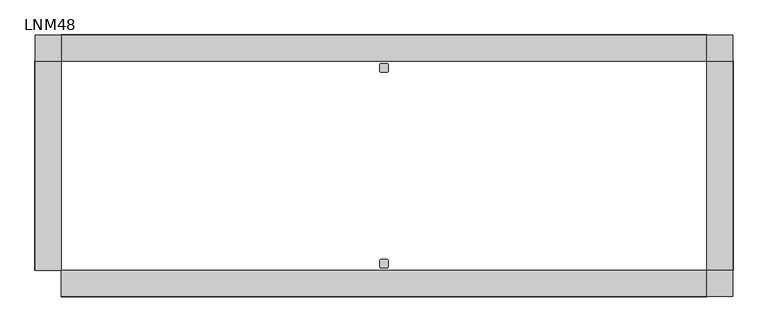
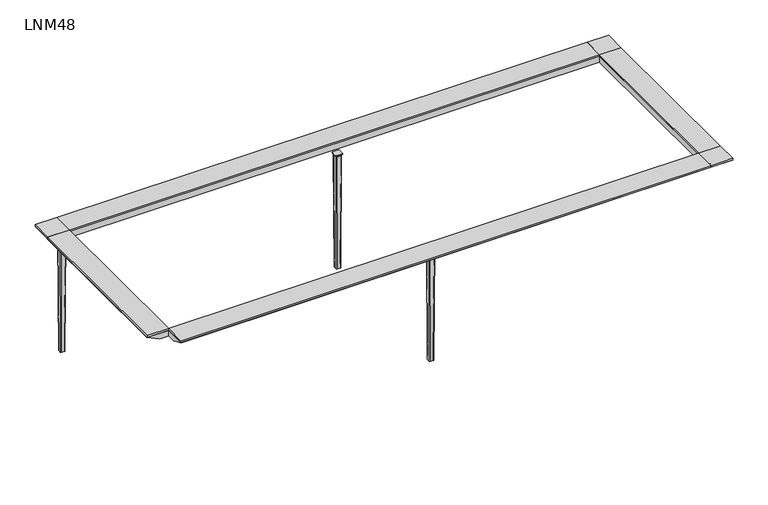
"""IFC4 building model written with IfcOpenShell, lengths in millimetres: furniture geometry, Operative Twin Desks : LNM48."""

from ifc_helpers import new_model, si_unit, point, frame, origin, place, context, project, spatial, polyline, circle_curve, ellipse_curve, trimmed, outline, extrude, faceted_brep, source, transform, mapped, element, save
from ifc_brep_helpers import plane_surface, cylinder_surface, revolved_surface, extruded_surface, advanced_brep


def lnm48_fb573a42(model_context):
    return source(origin(), model_context, "Body", "SolidModel", [
        advanced_brep(
        [(12.0, -430.0, 675.0), (-12.0, -430.0, 675.0), (-20.0, -438.0, 675.0), (-20.0, -462.0, 675.0), (-12.0, -470.0, 675.0), (12.0, -470.0, 675.0), (20.0, -462.0, 675.0), (20.0, -438.0, 675.0), (15.0, -462.0, 665.0), (12.0, -465.0, 665.0), (-12.0, -465.0, 665.0), (-15.0, -462.0, 665.0), (-15.0, -438.0, 665.0), (-12.0, -435.0, 665.0), (12.0, -435.0, 665.0), (15.0, -438.0, 665.0), (12.0, -430.0, 672.0), (-12.0, -430.0, 672.0), (-20.0, -438.0, 672.0), (-20.0, -462.0, 672.0), (-12.0, -470.0, 672.0), (12.0, -470.0, 672.0), (20.0, -462.0, 672.0), (20.0, -438.0, 672.0)],
        [
            (0, 1),
            (1, 2, circle_curve(frame((-12.0, -438.0, 675.0), z_axis=(0.0, 0.0, 1.0), x_axis=(1.0, 0.0, 0.0)), 8.0)),
            (2, 3),
            (3, 4, circle_curve(frame((-12.0, -462.0, 675.0), z_axis=(0.0, 0.0, 1.0), x_axis=(1.0, 0.0, 0.0)), 8.0)),
            (4, 5),
            (5, 6, circle_curve(frame((12.0, -462.0, 675.0), z_axis=(0.0, 0.0, 1.0), x_axis=(1.0, 0.0, 0.0)), 8.0)),
            (6, 7),
            (7, 0, circle_curve(frame((12.0, -438.0, 675.0), z_axis=(0.0, 0.0, 1.0), x_axis=(1.0, 0.0, 0.0)), 8.0)),
            (8, 9, circle_curve(frame((12.0, -462.0, 665.0), z_axis=(0.0, 0.0, -1.0), x_axis=(1.0, 0.0, 0.0)), 3.0)),
            (9, 10),
            (10, 11, circle_curve(frame((-12.0, -462.0, 665.0), z_axis=(0.0, 0.0, -1.0), x_axis=(0.0, -1.0, 0.0)), 3.0)),
            (11, 12),
            (12, 13, circle_curve(frame((-12.0, -438.0, 665.0), z_axis=(0.0, 0.0, -1.0), x_axis=(-1.0, 0.0, 0.0)), 3.0)),
            (13, 14),
            (14, 15, circle_curve(frame((12.0, -438.0, 665.0), z_axis=(0.0, 0.0, -1.0), x_axis=(0.0, 1.0, 0.0)), 3.0)),
            (15, 8),
            (0, 16),
            (16, 17),
            (17, 1),
            (17, 18, circle_curve(frame((-12.0, -438.0, 672.0), z_axis=(0.0, 0.0, 1.0), x_axis=(1.0, 0.0, 0.0)), 8.0)),
            (18, 2),
            (18, 19),
            (19, 3),
            (19, 20, circle_curve(frame((-12.0, -462.0, 672.0), z_axis=(0.0, 0.0, 1.0), x_axis=(1.0, 0.0, 0.0)), 8.0)),
            (20, 4),
            (20, 21),
            (21, 5),
            (21, 22, circle_curve(frame((12.0, -462.0, 672.0), z_axis=(0.0, 0.0, 1.0), x_axis=(1.0, 0.0, 0.0)), 8.0)),
            (22, 6),
            (22, 23),
            (23, 7),
            (23, 16, circle_curve(frame((12.0, -438.0, 672.0), z_axis=(0.0, 0.0, 1.0), x_axis=(1.0, 0.0, 0.0)), 8.0)),
            (21, 9, circle_curve(frame((12.0, -473.9600528, 663.8856766), z_axis=(-1.0, 0.0, 0.0), x_axis=(0.0, -1.0, 0.0)), 9.0290787)),
            (8, 22, circle_curve(frame((23.9600528, -462.0, 663.8856766), z_axis=(0.0, 1.0, 0.0), x_axis=(1.0, 0.0, 0.0)), 9.0290787)),
            (20, 10, circle_curve(frame((-12.0, -473.9600528, 663.8856766), z_axis=(-1.0, 0.0, 0.0), x_axis=(0.0, -1.0, 0.0)), 9.0290787)),
            (19, 11, circle_curve(frame((-23.9600528, -462.0, 663.8856766), z_axis=(0.0, 1.0, 0.0), x_axis=(-1.0, 0.0, 0.0)), 9.0290787)),
            (18, 12, circle_curve(frame((-23.9600528, -438.0, 663.8856766), z_axis=(0.0, 1.0, 0.0), x_axis=(-1.0, 0.0, 0.0)), 9.0290787)),
            (17, 13, circle_curve(frame((-12.0, -426.0399472, 663.8856766), z_axis=(1.0, 0.0, 0.0), x_axis=(0.0, 1.0, 0.0)), 9.0290787)),
            (16, 14, circle_curve(frame((12.0, -426.0399472, 663.8856766), z_axis=(1.0, 0.0, 0.0), x_axis=(0.0, 1.0, 0.0)), 9.0290787)),
            (23, 15, circle_curve(frame((23.9600528, -438.0, 663.8856766), z_axis=(0.0, -1.0, 0.0), x_axis=(1.0, 0.0, 0.0)), 9.0290787)),
        ],
        [
            plane_surface(frame((-673.663284, -430.0, 675.0), z_axis=(0.0, 0.0, 1.0), x_axis=(-1.0, 0.0, 0.0))),
            plane_surface(frame((-673.663284, -430.0, 665.0), z_axis=(0.0, 0.0, -1.0), x_axis=(1.0, 0.0, 0.0))),
            plane_surface(frame((12.0, -430.0, 675.0), z_axis=(0.0, 1.0, 0.0), x_axis=(0.0, 0.0, -1.0))),
            cylinder_surface(frame((-12.0, -438.0, 665.0), z_axis=(0.0, 0.0, 1.0), x_axis=(1.0, 0.0, 0.0)), 8.0),
            plane_surface(frame((-20.0, -438.0, 675.0), z_axis=(-1.0, 0.0, 0.0), x_axis=(0.0, 0.0, -1.0))),
            cylinder_surface(frame((-12.0, -462.0, 665.0), z_axis=(0.0, 0.0, 1.0), x_axis=(1.0, 0.0, 0.0)), 8.0),
            plane_surface(frame((-12.0, -470.0, 675.0), z_axis=(0.0, -1.0, 0.0), x_axis=(0.0, 0.0, -1.0))),
            cylinder_surface(frame((12.0, -462.0, 665.0), z_axis=(0.0, 0.0, 1.0), x_axis=(1.0, 0.0, 0.0)), 8.0),
            plane_surface(frame((20.0, -462.0, 675.0), z_axis=(1.0, 0.0, 0.0), x_axis=(0.0, 0.0, -1.0))),
            cylinder_surface(frame((12.0, -438.0, 665.0), z_axis=(0.0, 0.0, 1.0), x_axis=(1.0, 0.0, 0.0)), 8.0),
            revolved_surface(trimmed(ellipse_curve(frame((23.9600528, -462.0, 663.8856766), z_axis=(0.0, -1.0, 0.0), x_axis=(1.0, 0.0, 0.0)), 9.0290787, 9.0290787), [point((20.0, -462.0, 672.0))], [point((15.0, -462.0, 665.0))], True, "CARTESIAN"), (12.0, -462.0, 0.0), (0.0, 0.0, -1.0)),
            revolved_surface(polyline([(12.0, -482.98913150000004, 663.8856766), (-12.0, -482.98913150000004, 663.8856766)]), (12.0, -473.9600528, 663.8856766), (1.0, 0.0, 0.0)),
            revolved_surface(trimmed(ellipse_curve(frame((-12.0, -473.9600528, 663.8856766), z_axis=(-1.0, 0.0, 0.0), x_axis=(0.0, -1.0, 0.0)), 9.0290787, 9.0290787), [point((-12.0, -470.0, 672.0))], [point((-12.0, -465.0, 665.0))], True, "CARTESIAN"), (-12.0, -462.0, 0.0), (0.0, 0.0, -1.0)),
            revolved_surface(polyline([(-32.9891315, -462.0, 663.8856766), (-32.9891315, -438.0, 663.8856766)]), (-23.9600528, -462.0, 663.8856766), (0.0, -1.0, 0.0)),
            revolved_surface(trimmed(ellipse_curve(frame((-23.9600528, -438.0, 663.8856766), z_axis=(0.0, 1.0, 0.0), x_axis=(-1.0, 0.0, 0.0)), 9.0290787, 9.0290787), [point((-20.0, -438.0, 672.0))], [point((-15.0, -438.0, 665.0))], True, "CARTESIAN"), (-12.0, -438.0, 0.0), (0.0, 0.0, -1.0)),
            revolved_surface(polyline([(-12.0, -417.01086849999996, 663.8856766), (12.0, -417.01086849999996, 663.8856766)]), (-12.0, -426.0399472, 663.8856766), (-1.0, 0.0, 0.0)),
            revolved_surface(trimmed(ellipse_curve(frame((12.0, -426.0399472, 663.8856766), z_axis=(1.0, 0.0, 0.0), x_axis=(0.0, 1.0, 0.0)), 9.0290787, 9.0290787), [point((12.0, -430.0, 672.0))], [point((12.0, -435.0, 665.0))], True, "CARTESIAN"), (12.0, -438.0, 0.0), (0.0, 0.0, -1.0)),
            revolved_surface(polyline([(32.9891315, -438.0, 663.8856766), (32.9891315, -462.0, 663.8856766)]), (23.9600528, -438.0, 663.8856766), (0.0, 1.0, 0.0)),
        ],
        [
            (0, [[1, 2, 3, 4, 5, 6, 7, 8]]),
            (1, [[9, 10, 11, 12, 13, 14, 15, 16]]),
            (2, [[-1, 17, 18, 19]]),
            (3, [[-2, -19, 20, 21]]),
            (4, [[-3, -21, 22, 23]]),
            (5, [[-4, -23, 24, 25]]),
            (6, [[-5, -25, 26, 27]]),
            (7, [[-6, -27, 28, 29]]),
            (8, [[-7, -29, 30, 31]]),
            (9, [[-8, -31, 32, -17]]),
            (10, [[33, -9, 34, -28]]),
            (11, [[-33, -26, 35, -10]]),
            (12, [[-35, -24, 36, -11]]),
            (13, [[-36, -22, 37, -12]]),
            (14, [[-37, -20, 38, -13]]),
            (15, [[-38, -18, 39, -14]]),
            (16, [[-39, -32, 40, -15]]),
            (17, [[-34, -16, -40, -30]]),
        ],
    ),
        advanced_brep(
        [(-15.0, -462.0, 665.0), (-12.0, -465.0, 665.0), (12.0, -465.0, 665.0), (15.0, -462.0, 665.0), (15.0, -438.0, 665.0), (12.0, -435.0, 665.0), (-12.0, -435.0, 665.0), (-15.0, -438.0, 665.0), (-12.0, -459.0, 0.0), (-12.0, -441.0, 0.0), (-9.0, -438.0, 0.0), (9.0, -438.0, 0.0), (12.0, -441.0, 0.0), (12.0, -459.0, 0.0), (9.0, -462.0, 0.0), (-9.0, -462.0, 0.0)],
        [
            (0, 1, circle_curve(frame((-12.0, -462.0, 665.0), z_axis=(0.0, 0.0, 1.0), x_axis=(1.0, 0.0, 0.0)), 3.0)),
            (1, 2),
            (2, 3, circle_curve(frame((12.0, -462.0, 665.0), z_axis=(0.0, 0.0, 1.0), x_axis=(1.0, 0.0, 0.0)), 3.0)),
            (3, 4),
            (4, 5, circle_curve(frame((12.0, -438.0, 665.0), z_axis=(0.0, 0.0, 1.0), x_axis=(1.0, 0.0, 0.0)), 3.0)),
            (5, 6),
            (6, 7, circle_curve(frame((-12.0, -438.0, 665.0), z_axis=(0.0, 0.0, 1.0), x_axis=(1.0, 0.0, 0.0)), 3.0)),
            (7, 0),
            (8, 9),
            (9, 10, circle_curve(frame((-9.0, -441.0, 0.0), z_axis=(0.0, 0.0, -1.0), x_axis=(1.0, 0.0, 0.0)), 3.0)),
            (10, 11),
            (11, 12, circle_curve(frame((9.0, -441.0, 0.0), z_axis=(0.0, 0.0, -1.0), x_axis=(1.0, 0.0, 0.0)), 3.0)),
            (12, 13),
            (13, 14, circle_curve(frame((9.0, -459.0, 0.0), z_axis=(0.0, 0.0, -1.0), x_axis=(1.0, 0.0, 0.0)), 3.0)),
            (14, 15),
            (15, 8, circle_curve(frame((-9.0, -459.0, 0.0), z_axis=(0.0, 0.0, -1.0), x_axis=(1.0, 0.0, 0.0)), 3.0)),
            (15, 1),
            (0, 8),
            (14, 2),
            (13, 3),
            (12, 4),
            (11, 5),
            (10, 6),
            (9, 7),
        ],
        [
            plane_surface(frame((0.0, -450.0, 665.0), z_axis=(0.0, 0.0, 1.0), x_axis=(-1.0, 0.0, 0.0))),
            plane_surface(frame((0.0, -450.0, 0.0), z_axis=(0.0, 0.0, -1.0), x_axis=(-1.0, 0.0, 0.0))),
            extruded_surface(trimmed(circle_curve(frame((-9.0, -459.0, 0.0), z_axis=(0.0, 0.0, 1.0), x_axis=(1.0, 0.0, 0.0)), 3.0), [point((-12.0, -459.0, 0.0))], [point((-9.0, -462.0, 0.0))], True, "CARTESIAN"), (-3.0, -3.0, 665.0), 665.0135336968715),
            plane_surface(frame((0.0, -462.0, 0.0), z_axis=(0.0, -0.9999898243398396, -0.004511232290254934), x_axis=(1.0, 0.0, 0.0))),
            extruded_surface(trimmed(circle_curve(frame((9.0, -459.0, 0.0), z_axis=(0.0, 0.0, 1.0), x_axis=(1.0, 0.0, 0.0)), 3.0), [point((9.0, -462.0, 0.0))], [point((12.0, -459.0, 0.0))], True, "CARTESIAN"), (3.0, -3.0, 665.0), 665.0135336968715),
            plane_surface(frame((12.0, -450.0, 0.0), z_axis=(0.9999898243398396, 0.0, -0.004511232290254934), x_axis=(0.0, 1.0, 0.0))),
            extruded_surface(trimmed(circle_curve(frame((9.0, -441.0, 0.0), z_axis=(0.0, 0.0, 1.0), x_axis=(1.0, 0.0, 0.0)), 3.0), [point((12.0, -441.0, 0.0))], [point((9.0, -438.0, 0.0))], True, "CARTESIAN"), (3.0, 3.0, 665.0), 665.0135336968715),
            plane_surface(frame((0.0, -438.0, 0.0), z_axis=(0.0, 0.9999898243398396, -0.004511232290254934), x_axis=(-1.0, 0.0, 0.0))),
            extruded_surface(trimmed(circle_curve(frame((-9.0, -441.0, 0.0), z_axis=(0.0, 0.0, 1.0), x_axis=(1.0, 0.0, 0.0)), 3.0), [point((-9.0, -438.0, 0.0))], [point((-12.0, -441.0, 0.0))], True, "CARTESIAN"), (-3.0, 3.0, 665.0), 665.0135336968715),
            plane_surface(frame((-12.0, -450.0, 0.0), z_axis=(-0.9999898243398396, 0.0, -0.004511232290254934), x_axis=(0.0, -1.0, 0.0))),
        ],
        [
            (0, [[1, 2, 3, 4, 5, 6, 7, 8]]),
            (1, [[9, 10, 11, 12, 13, 14, 15, 16]]),
            (2, [[-16, 17, -1, 18]]),
            (3, [[-15, 19, -2, -17]]),
            (4, [[-14, 20, -3, -19]]),
            (5, [[-13, 21, -4, -20]]),
            (6, [[-12, 22, -5, -21]]),
            (7, [[-11, 23, -6, -22]]),
            (8, [[-10, 24, -7, -23]]),
            (9, [[-9, -18, -8, -24]]),
        ],
    ),
        advanced_brep(
        [(12.0, 470.0, 675.0), (-12.0, 470.0, 675.0), (-20.0, 462.0, 675.0), (-20.0, 438.0, 675.0), (-12.0, 430.0, 675.0), (12.0, 430.0, 675.0), (20.0, 438.0, 675.0), (20.0, 462.0, 675.0), (15.0, 438.0, 665.0), (12.0, 435.0, 665.0), (-12.0, 435.0, 665.0), (-15.0, 438.0, 665.0), (-15.0, 462.0, 665.0), (-12.0, 465.0, 665.0), (12.0, 465.0, 665.0), (15.0, 462.0, 665.0), (12.0, 470.0, 672.0), (-12.0, 470.0, 672.0), (-20.0, 462.0, 672.0), (-20.0, 438.0, 672.0), (-12.0, 430.0, 672.0), (12.0, 430.0, 672.0), (20.0, 438.0, 672.0), (20.0, 462.0, 672.0)],
        [
            (0, 1),
            (1, 2, circle_curve(frame((-12.0, 462.0, 675.0), z_axis=(0.0, 0.0, 1.0), x_axis=(1.0, 0.0, 0.0)), 8.0)),
            (2, 3),
            (3, 4, circle_curve(frame((-12.0, 438.0, 675.0), z_axis=(0.0, 0.0, 1.0), x_axis=(1.0, 0.0, 0.0)), 8.0)),
            (4, 5),
            (5, 6, circle_curve(frame((12.0, 438.0, 675.0), z_axis=(0.0, 0.0, 1.0), x_axis=(1.0, 0.0, 0.0)), 8.0)),
            (6, 7),
            (7, 0, circle_curve(frame((12.0, 462.0, 675.0), z_axis=(0.0, 0.0, 1.0), x_axis=(1.0, 0.0, 0.0)), 8.0)),
            (8, 9, circle_curve(frame((12.0, 438.0, 665.0), z_axis=(0.0, 0.0, -1.0), x_axis=(1.0, 0.0, 0.0)), 3.0)),
            (9, 10),
            (10, 11, circle_curve(frame((-12.0, 438.0, 665.0), z_axis=(0.0, 0.0, -1.0), x_axis=(0.0, -1.0, 0.0)), 3.0)),
            (11, 12),
            (12, 13, circle_curve(frame((-12.0, 462.0, 665.0), z_axis=(0.0, 0.0, -1.0), x_axis=(-1.0, 0.0, 0.0)), 3.0)),
            (13, 14),
            (14, 15, circle_curve(frame((12.0, 462.0, 665.0), z_axis=(0.0, 0.0, -1.0), x_axis=(0.0, 1.0, 0.0)), 3.0)),
            (15, 8),
            (0, 16),
            (16, 17),
            (17, 1),
            (17, 18, circle_curve(frame((-12.0, 462.0, 672.0), z_axis=(0.0, 0.0, 1.0), x_axis=(1.0, 0.0, 0.0)), 8.0)),
            (18, 2),
            (18, 19),
            (19, 3),
            (19, 20, circle_curve(frame((-12.0, 438.0, 672.0), z_axis=(0.0, 0.0, 1.0), x_axis=(1.0, 0.0, 0.0)), 8.0)),
            (20, 4),
            (20, 21),
            (21, 5),
            (21, 22, circle_curve(frame((12.0, 438.0, 672.0), z_axis=(0.0, 0.0, 1.0), x_axis=(1.0, 0.0, 0.0)), 8.0)),
            (22, 6),
            (22, 23),
            (23, 7),
            (23, 16, circle_curve(frame((12.0, 462.0, 672.0), z_axis=(0.0, 0.0, 1.0), x_axis=(1.0, 0.0, 0.0)), 8.0)),
            (21, 9, circle_curve(frame((12.0, 426.0399472, 663.8856766), z_axis=(-1.0, 0.0, 0.0), x_axis=(0.0, -1.0, 0.0)), 9.0290787)),
            (8, 22, circle_curve(frame((23.9600528, 438.0, 663.8856766), z_axis=(0.0, 1.0, 0.0), x_axis=(1.0, 0.0, 0.0)), 9.0290787)),
            (20, 10, circle_curve(frame((-12.0, 426.0399472, 663.8856766), z_axis=(-1.0, 0.0, 0.0), x_axis=(0.0, -1.0, 0.0)), 9.0290787)),
            (19, 11, circle_curve(frame((-23.9600528, 438.0, 663.8856766), z_axis=(0.0, 1.0, 0.0), x_axis=(-1.0, 0.0, 0.0)), 9.0290787)),
            (18, 12, circle_curve(frame((-23.9600528, 462.0, 663.8856766), z_axis=(0.0, 1.0, 0.0), x_axis=(-1.0, 0.0, 0.0)), 9.0290787)),
            (17, 13, circle_curve(frame((-12.0, 473.9600528, 663.8856766), z_axis=(1.0, 0.0, 0.0), x_axis=(0.0, 1.0, 0.0)), 9.0290787)),
            (16, 14, circle_curve(frame((12.0, 473.9600528, 663.8856766), z_axis=(1.0, 0.0, 0.0), x_axis=(0.0, 1.0, 0.0)), 9.0290787)),
            (23, 15, circle_curve(frame((23.9600528, 462.0, 663.8856766), z_axis=(0.0, -1.0, 0.0), x_axis=(1.0, 0.0, 0.0)), 9.0290787)),
        ],
        [
            plane_surface(frame((-673.663284, 470.0, 675.0), z_axis=(0.0, 0.0, 1.0), x_axis=(-1.0, 0.0, 0.0))),
            plane_surface(frame((-673.663284, 470.0, 665.0), z_axis=(0.0, 0.0, -1.0), x_axis=(1.0, 0.0, 0.0))),
            plane_surface(frame((12.0, 470.0, 675.0), z_axis=(0.0, 1.0, 0.0), x_axis=(0.0, 0.0, -1.0))),
            cylinder_surface(frame((-12.0, 462.0, 665.0), z_axis=(0.0, 0.0, 1.0), x_axis=(1.0, 0.0, 0.0)), 8.0),
            plane_surface(frame((-20.0, 462.0, 675.0), z_axis=(-1.0, 0.0, 0.0), x_axis=(0.0, 0.0, -1.0))),
            cylinder_surface(frame((-12.0, 438.0, 665.0), z_axis=(0.0, 0.0, 1.0), x_axis=(1.0, 0.0, 0.0)), 8.0),
            plane_surface(frame((-12.0, 430.0, 675.0), z_axis=(0.0, -1.0, 0.0), x_axis=(0.0, 0.0, -1.0))),
            cylinder_surface(frame((12.0, 438.0, 665.0), z_axis=(0.0, 0.0, 1.0), x_axis=(1.0, 0.0, 0.0)), 8.0),
            plane_surface(frame((20.0, 438.0, 675.0), z_axis=(1.0, 0.0, 0.0), x_axis=(0.0, 0.0, -1.0))),
            cylinder_surface(frame((12.0, 462.0, 665.0), z_axis=(0.0, 0.0, 1.0), x_axis=(1.0, 0.0, 0.0)), 8.0),
            revolved_surface(trimmed(ellipse_curve(frame((23.9600528, 438.0, 663.8856766), z_axis=(0.0, -1.0, 0.0), x_axis=(1.0, 0.0, 0.0)), 9.0290787, 9.0290787), [point((20.0, 438.0, 672.0))], [point((15.0, 438.0, 665.0))], True, "CARTESIAN"), (12.0, 438.0, 0.0), (0.0, 0.0, -1.0)),
            revolved_surface(polyline([(12.0, 417.01086849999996, 663.8856766), (-12.0, 417.01086849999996, 663.8856766)]), (12.0, 426.0399472, 663.8856766), (1.0, 0.0, 0.0)),
            revolved_surface(trimmed(ellipse_curve(frame((-12.0, 426.0399472, 663.8856766), z_axis=(-1.0, 0.0, 0.0), x_axis=(0.0, -1.0, 0.0)), 9.0290787, 9.0290787), [point((-12.0, 430.0, 672.0))], [point((-12.0, 435.0, 665.0))], True, "CARTESIAN"), (-12.0, 438.0, 0.0), (0.0, 0.0, -1.0)),
            revolved_surface(polyline([(-32.9891315, 438.0, 663.8856766), (-32.9891315, 462.0, 663.8856766)]), (-23.9600528, 438.0, 663.8856766), (0.0, -1.0, 0.0)),
            revolved_surface(trimmed(ellipse_curve(frame((-23.9600528, 462.0, 663.8856766), z_axis=(0.0, 1.0, 0.0), x_axis=(-1.0, 0.0, 0.0)), 9.0290787, 9.0290787), [point((-20.0, 462.0, 672.0))], [point((-15.0, 462.0, 665.0))], True, "CARTESIAN"), (-12.0, 462.0, 0.0), (0.0, 0.0, -1.0)),
            revolved_surface(polyline([(-12.0, 482.98913150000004, 663.8856766), (12.0, 482.98913150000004, 663.8856766)]), (-12.0, 473.9600528, 663.8856766), (-1.0, 0.0, 0.0)),
            revolved_surface(trimmed(ellipse_curve(frame((12.0, 473.9600528, 663.8856766), z_axis=(1.0, 0.0, 0.0), x_axis=(0.0, 1.0, 0.0)), 9.0290787, 9.0290787), [point((12.0, 470.0, 672.0))], [point((12.0, 465.0, 665.0))], True, "CARTESIAN"), (12.0, 462.0, 0.0), (0.0, 0.0, -1.0)),
            revolved_surface(polyline([(32.9891315, 462.0, 663.8856766), (32.9891315, 438.0, 663.8856766)]), (23.9600528, 462.0, 663.8856766), (0.0, 1.0, 0.0)),
        ],
        [
            (0, [[1, 2, 3, 4, 5, 6, 7, 8]]),
            (1, [[9, 10, 11, 12, 13, 14, 15, 16]]),
            (2, [[-1, 17, 18, 19]]),
            (3, [[-2, -19, 20, 21]]),
            (4, [[-3, -21, 22, 23]]),
            (5, [[-4, -23, 24, 25]]),
            (6, [[-5, -25, 26, 27]]),
            (7, [[-6, -27, 28, 29]]),
            (8, [[-7, -29, 30, 31]]),
            (9, [[-8, -31, 32, -17]]),
            (10, [[33, -9, 34, -28]]),
            (11, [[-33, -26, 35, -10]]),
            (12, [[-35, -24, 36, -11]]),
            (13, [[-36, -22, 37, -12]]),
            (14, [[-37, -20, 38, -13]]),
            (15, [[-38, -18, 39, -14]]),
            (16, [[-39, -32, 40, -15]]),
            (17, [[-34, -16, -40, -30]]),
        ],
    ),
        advanced_brep(
        [(-15.0, 438.0, 665.0), (-12.0, 435.0, 665.0), (12.0, 435.0, 665.0), (15.0, 438.0, 665.0), (15.0, 462.0, 665.0), (12.0, 465.0, 665.0), (-12.0, 465.0, 665.0), (-15.0, 462.0, 665.0), (-12.0, 441.0, 0.0), (-12.0, 459.0, 0.0), (-9.0, 462.0, 0.0), (9.0, 462.0, 0.0), (12.0, 459.0, 0.0), (12.0, 441.0, 0.0), (9.0, 438.0, 0.0), (-9.0, 438.0, 0.0)],
        [
            (0, 1, circle_curve(frame((-12.0, 438.0, 665.0), z_axis=(0.0, 0.0, 1.0), x_axis=(1.0, 0.0, 0.0)), 3.0)),
            (1, 2),
            (2, 3, circle_curve(frame((12.0, 438.0, 665.0), z_axis=(0.0, 0.0, 1.0), x_axis=(1.0, 0.0, 0.0)), 3.0)),
            (3, 4),
            (4, 5, circle_curve(frame((12.0, 462.0, 665.0), z_axis=(0.0, 0.0, 1.0), x_axis=(1.0, 0.0, 0.0)), 3.0)),
            (5, 6),
            (6, 7, circle_curve(frame((-12.0, 462.0, 665.0), z_axis=(0.0, 0.0, 1.0), x_axis=(1.0, 0.0, 0.0)), 3.0)),
            (7, 0),
            (8, 9),
            (9, 10, circle_curve(frame((-9.0, 459.0, 0.0), z_axis=(0.0, 0.0, -1.0), x_axis=(1.0, 0.0, 0.0)), 3.0)),
            (10, 11),
            (11, 12, circle_curve(frame((9.0, 459.0, 0.0), z_axis=(0.0, 0.0, -1.0), x_axis=(1.0, 0.0, 0.0)), 3.0)),
            (12, 13),
            (13, 14, circle_curve(frame((9.0, 441.0, 0.0), z_axis=(0.0, 0.0, -1.0), x_axis=(1.0, 0.0, 0.0)), 3.0)),
            (14, 15),
            (15, 8, circle_curve(frame((-9.0, 441.0, 0.0), z_axis=(0.0, 0.0, -1.0), x_axis=(1.0, 0.0, 0.0)), 3.0)),
            (15, 1),
            (0, 8),
            (14, 2),
            (13, 3),
            (12, 4),
            (11, 5),
            (10, 6),
            (9, 7),
        ],
        [
            plane_surface(frame((0.0, 450.0, 665.0), z_axis=(0.0, 0.0, 1.0), x_axis=(-1.0, 0.0, 0.0))),
            plane_surface(frame((0.0, 450.0, 0.0), z_axis=(0.0, 0.0, -1.0), x_axis=(-1.0, 0.0, 0.0))),
            extruded_surface(trimmed(circle_curve(frame((-9.0, 441.0, 0.0), z_axis=(0.0, 0.0, 1.0), x_axis=(1.0, 0.0, 0.0)), 3.0), [point((-12.0, 441.0, 0.0))], [point((-9.0, 438.0, 0.0))], True, "CARTESIAN"), (-3.0, -3.0, 665.0), 665.0135336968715),
            plane_surface(frame((0.0, 438.0, 0.0), z_axis=(0.0, -0.9999898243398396, -0.004511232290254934), x_axis=(1.0, 0.0, 0.0))),
            extruded_surface(trimmed(circle_curve(frame((9.0, 441.0, 0.0), z_axis=(0.0, 0.0, 1.0), x_axis=(1.0, 0.0, 0.0)), 3.0), [point((9.0, 438.0, 0.0))], [point((12.0, 441.0, 0.0))], True, "CARTESIAN"), (3.0, -3.0, 665.0), 665.0135336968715),
            plane_surface(frame((12.0, 450.0, 0.0), z_axis=(0.9999898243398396, 0.0, -0.004511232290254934), x_axis=(0.0, 1.0, 0.0))),
            extruded_surface(trimmed(circle_curve(frame((9.0, 459.0, 0.0), z_axis=(0.0, 0.0, 1.0), x_axis=(1.0, 0.0, 0.0)), 3.0), [point((12.0, 459.0, 0.0))], [point((9.0, 462.0, 0.0))], True, "CARTESIAN"), (3.0, 3.0, 665.0), 665.0135336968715),
            plane_surface(frame((0.0, 462.0, 0.0), z_axis=(0.0, 0.9999898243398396, -0.004511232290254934), x_axis=(-1.0, 0.0, 0.0))),
            extruded_surface(trimmed(circle_curve(frame((-9.0, 459.0, 0.0), z_axis=(0.0, 0.0, 1.0), x_axis=(1.0, 0.0, 0.0)), 3.0), [point((-9.0, 462.0, 0.0))], [point((-12.0, 459.0, 0.0))], True, "CARTESIAN"), (-3.0, 3.0, 665.0), 665.0135336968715),
            plane_surface(frame((-12.0, 450.0, 0.0), z_axis=(-0.9999898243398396, 0.0, -0.004511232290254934), x_axis=(0.0, -1.0, 0.0))),
        ],
        [
            (0, [[1, 2, 3, 4, 5, 6, 7, 8]]),
            (1, [[9, 10, 11, 12, 13, 14, 15, 16]]),
            (2, [[-16, 17, -1, 18]]),
            (3, [[-15, 19, -2, -17]]),
            (4, [[-14, 20, -3, -19]]),
            (5, [[-13, 21, -4, -20]]),
            (6, [[-12, 22, -5, -21]]),
            (7, [[-11, 23, -6, -22]]),
            (8, [[-10, 24, -7, -23]]),
            (9, [[-9, -18, -8, -24]]),
        ],
    ),
        extrude(outline(polyline([(1600.0, -480.0), (1600.0, -600.0), (1480.0, -600.0), (1480.0, -480.0), (1600.0, -480.0)])), frame((0.0, 0.0, 710.0), z_axis=(0.0, 0.0, 1.0), x_axis=(1.0, 0.0, 0.0)), (0.0, 0.0, 1.0), 10.0),
        extrude(outline(polyline([(1600.0, 600.0), (1600.0, 480.0), (1480.0, 480.0), (1480.0, 600.0), (1600.0, 600.0)])), frame((0.0, 0.0, 710.0), z_axis=(0.0, 0.0, 1.0), x_axis=(1.0, 0.0, 0.0)), (0.0, 0.0, 1.0), 10.0),
        extrude(outline(polyline([(-1480.0, 600.0), (-1480.0, 480.0), (-1600.0, 480.0), (-1600.0, 600.0), (-1480.0, 600.0)])), frame((0.0, 0.0, 710.0), z_axis=(0.0, 0.0, 1.0), x_axis=(1.0, 0.0, 0.0)), (0.0, 0.0, 1.0), 10.0),
        extrude(outline(polyline([(-1600.0, 480.0), (-1480.0, 480.0), (-1480.0, -480.0), (-1600.0, -480.0), (-1600.0, 480.0)])), frame((0.0, 0.0, 710.0), z_axis=(0.0, 0.0, 1.0), x_axis=(1.0, 0.0, 0.0)), (0.0, 0.0, 1.0), 10.0),
        extrude(outline(polyline([(1480.0, 480.0), (1600.0, 480.0), (1600.0, -480.0), (1480.0, -480.0), (1480.0, 480.0)])), frame((0.0, 0.0, 710.0), z_axis=(0.0, 0.0, 1.0), x_axis=(1.0, 0.0, 0.0)), (0.0, 0.0, 1.0), 10.0),
        extrude(outline(polyline([(1480.0, -480.0), (1480.0, -600.0), (-1480.0, -600.0), (-1480.0, -480.0), (1480.0, -480.0)])), frame((0.0, 0.0, 710.0), z_axis=(0.0, 0.0, 1.0), x_axis=(1.0, 0.0, 0.0)), (0.0, 0.0, 1.0), 10.0),
        extrude(outline(polyline([(1480.0, 600.0), (1480.0, 480.0), (-1480.0, 480.0), (-1480.0, 600.0), (1480.0, 600.0)])), frame((0.0, 0.0, 710.0), z_axis=(0.0, 0.0, 1.0), x_axis=(1.0, 0.0, 0.0)), (0.0, 0.0, 1.0), 10.0),
        extrude(outline(polyline([(710.0, 1480.0), (675.0, 1480.0), (675.0, 1528.7129935), (710.0, 1601.7129935), (710.0, 1480.0)])), frame((0.0, -480.0, 0.0), z_axis=(0.0, 1.0, 0.0), x_axis=(0.0, 0.0, 1.0)), (0.0, 0.0, 1.0), 960.0),
        extrude(outline(polyline([(710.0, -1480.0), (710.0, -1601.7129935), (675.0, -1528.7129935), (675.0, -1480.0), (710.0, -1480.0)])), frame((0.0, -480.0, 0.0), z_axis=(0.0, 1.0, 0.0), x_axis=(0.0, 0.0, 1.0)), (0.0, 0.0, 1.0), 960.0),
        extrude(outline(polyline([(480.0, 710.0), (601.7129935, 710.0), (528.7129935, 675.0), (480.0, 675.0), (480.0, 710.0)])), frame((-1480.0, 0.0, 0.0), z_axis=(1.0, 0.0, 0.0), x_axis=(0.0, 1.0, 0.0)), (0.0, 0.0, 1.0), 2960.0),
        extrude(outline(polyline([(-480.0, 710.0), (-480.0, 675.0), (-528.7129935, 675.0), (-601.7129935, 710.0), (-480.0, 710.0)])), frame((-1480.0, 0.0, 0.0), z_axis=(1.0, 0.0, 0.0), x_axis=(0.0, 1.0, 0.0)), (0.0, 0.0, 1.0), 2960.0),
        faceted_brep([(-1480.0, 480.0, 710.0), (-1480.0, 600.0, 710.0), (-1600.0, 600.0, 710.0), (-1600.0, 480.0, 710.0), (-1480.0, 480.0, 675.0), (-1527.0, 480.0, 675.0), (-1527.0, 527.0, 675.0), (-1480.0, 527.0, 675.0)], [[[0, 1, 2, 3]], [[4, 5, 6, 7]], [[1, 0, 4, 7]], [[0, 3, 5, 4]], [[6, 2, 1, 7]], [[2, 6, 5, 3]]]),
        advanced_brep(
        [(-1487.0, 495.0, 675.0), (-1487.0, 519.0, 675.0), (-1495.0, 527.0, 675.0), (-1519.0, 527.0, 675.0), (-1527.0, 519.0, 675.0), (-1527.0, 495.0, 675.0), (-1519.0, 487.0, 675.0), (-1495.0, 487.0, 675.0), (-1519.0, 492.0, 665.0), (-1522.0, 495.0, 665.0), (-1522.0, 519.0, 665.0), (-1519.0, 522.0, 665.0), (-1495.0, 522.0, 665.0), (-1492.0, 519.0, 665.0), (-1492.0, 495.0, 665.0), (-1495.0, 492.0, 665.0), (-1487.0, 495.0, 672.0), (-1487.0, 519.0, 672.0), (-1495.0, 527.0, 672.0), (-1519.0, 527.0, 672.0), (-1527.0, 519.0, 672.0), (-1527.0, 495.0, 672.0), (-1519.0, 487.0, 672.0), (-1495.0, 487.0, 672.0)],
        [
            (0, 1),
            (1, 2, circle_curve(frame((-1495.0, 519.0, 675.0), z_axis=(0.0, 0.0, 1.0), x_axis=(0.0, -1.0000000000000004, 0.0)), 8.0)),
            (2, 3),
            (3, 4, circle_curve(frame((-1519.0, 519.0, 675.0), z_axis=(0.0, 0.0, 1.0), x_axis=(0.0, -1.0000000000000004, 0.0)), 8.0)),
            (4, 5),
            (5, 6, circle_curve(frame((-1519.0, 495.0, 675.0), z_axis=(0.0, 0.0, 1.0), x_axis=(0.0, -1.0000000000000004, 0.0)), 8.0)),
            (6, 7),
            (7, 0, circle_curve(frame((-1495.0, 495.0, 675.0), z_axis=(0.0, 0.0, 1.0), x_axis=(0.0, -1.0000000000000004, 0.0)), 8.0)),
            (8, 9, circle_curve(frame((-1519.0, 495.0, 665.0), z_axis=(0.0, 0.0, -1.0), x_axis=(0.0, -1.0000000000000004, 0.0)), 3.0)),
            (9, 10),
            (10, 11, circle_curve(frame((-1519.0, 519.0, 665.0), z_axis=(0.0, 0.0, -1.0), x_axis=(-1.0000000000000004, 0.0, 0.0)), 3.0)),
            (11, 12),
            (12, 13, circle_curve(frame((-1495.0, 519.0, 665.0), z_axis=(0.0, 0.0, -1.0), x_axis=(0.0, 1.0000000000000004, 0.0)), 3.0)),
            (13, 14),
            (14, 15, circle_curve(frame((-1495.0, 495.0, 665.0), z_axis=(0.0, 0.0, -1.0), x_axis=(1.0000000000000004, 0.0, 0.0)), 3.0)),
            (15, 8),
            (0, 16),
            (16, 17),
            (17, 1),
            (17, 18, circle_curve(frame((-1495.0, 519.0, 672.0), z_axis=(0.0, 0.0, 1.0), x_axis=(0.0, -1.0000000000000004, 0.0)), 8.0)),
            (18, 2),
            (18, 19),
            (19, 3),
            (19, 20, circle_curve(frame((-1519.0, 519.0, 672.0), z_axis=(0.0, 0.0, 1.0), x_axis=(0.0, -1.0000000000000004, 0.0)), 8.0)),
            (20, 4),
            (20, 21),
            (21, 5),
            (21, 22, circle_curve(frame((-1519.0, 495.0, 672.0), z_axis=(0.0, 0.0, 1.0), x_axis=(0.0, -1.0000000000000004, 0.0)), 8.0)),
            (22, 6),
            (22, 23),
            (23, 7),
            (23, 16, circle_curve(frame((-1495.0, 495.0, 672.0), z_axis=(0.0, 0.0, 1.0), x_axis=(0.0, -1.0000000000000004, 0.0)), 8.0)),
            (21, 9, circle_curve(frame((-1530.9600528, 495.0, 663.8856766), z_axis=(0.0, 1.0000000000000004, 0.0), x_axis=(-1.0000000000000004, 0.0, 0.0)), 9.0290787)),
            (8, 22, circle_curve(frame((-1519.0, 483.0399472, 663.8856766), z_axis=(1.0000000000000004, 0.0, 0.0), x_axis=(0.0, -1.0000000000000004, 0.0)), 9.0290787)),
            (20, 10, circle_curve(frame((-1530.9600528, 519.0, 663.8856766), z_axis=(0.0, 1.0, 0.0), x_axis=(-1.0000000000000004, 0.0, 0.0)), 9.0290787)),
            (19, 11, circle_curve(frame((-1519.0, 530.9600528, 663.8856766), z_axis=(1.0000000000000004, 0.0, 0.0), x_axis=(0.0, 1.0000000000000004, 0.0)), 9.0290787)),
            (18, 12, circle_curve(frame((-1495.0, 530.9600528, 663.8856766), z_axis=(1.0, 0.0, 0.0), x_axis=(0.0, 1.0000000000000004, 0.0)), 9.0290787)),
            (17, 13, circle_curve(frame((-1483.0399472, 519.0, 663.8856766), z_axis=(0.0, -1.0000000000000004, 0.0), x_axis=(1.0000000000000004, 0.0, 0.0)), 9.0290787)),
            (16, 14, circle_curve(frame((-1483.0399472, 495.0, 663.8856766), z_axis=(0.0, -1.0, 0.0), x_axis=(1.0000000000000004, 0.0, 0.0)), 9.0290787)),
            (23, 15, circle_curve(frame((-1495.0, 483.0399472, 663.8856766), z_axis=(-1.0000000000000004, 0.0, 0.0), x_axis=(0.0, -1.0000000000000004, 0.0)), 9.0290787)),
        ],
        [
            plane_surface(frame((-1487.0, 1180.663284, 675.0), z_axis=(0.0, 0.0, 1.0), x_axis=(0.0, 1.0, 0.0))),
            plane_surface(frame((-1487.0, 1180.663284, 665.0), z_axis=(0.0, 0.0, -1.0), x_axis=(0.0, -1.0, 0.0))),
            plane_surface(frame((-1487.0, 495.0, 675.0), z_axis=(1.0, 0.0, 0.0), x_axis=(0.0, 0.0, -1.0))),
            cylinder_surface(frame((-1495.0, 519.0, 665.0), z_axis=(0.0, 0.0, 1.0), x_axis=(0.0, -1.0000000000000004, 0.0)), 8.0),
            plane_surface(frame((-1495.0, 527.0, 675.0), z_axis=(0.0, 1.0, 0.0), x_axis=(0.0, 0.0, -1.0))),
            cylinder_surface(frame((-1519.0, 519.0, 665.0), z_axis=(0.0, 0.0, 1.0), x_axis=(0.0, -1.0000000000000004, 0.0)), 8.0),
            plane_surface(frame((-1527.0, 519.0, 675.0), z_axis=(-1.0, 0.0, 0.0), x_axis=(0.0, 0.0, -1.0))),
            cylinder_surface(frame((-1519.0, 495.0, 665.0), z_axis=(0.0, 0.0, 1.0), x_axis=(0.0, -1.0000000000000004, 0.0)), 8.0),
            plane_surface(frame((-1519.0, 487.0, 675.0), z_axis=(0.0, -1.0, 0.0), x_axis=(0.0, 0.0, -1.0))),
            cylinder_surface(frame((-1495.0, 495.0, 665.0), z_axis=(0.0, 0.0, 1.0), x_axis=(0.0, -1.0000000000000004, 0.0)), 8.0),
            revolved_surface(trimmed(ellipse_curve(frame((-1519.0, 483.0399472, 663.8856766), z_axis=(-1.0000000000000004, 0.0, 0.0), x_axis=(0.0, -1.0000000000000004, 0.0)), 9.0290787, 9.0290787), [point((-1519.0, 487.0, 672.0))], [point((-1519.0, 492.0, 665.0))], True, "CARTESIAN"), (-1519.0, 495.0, 0.0), (0.0, 0.0, -1.0)),
            revolved_surface(polyline([(-1539.9891315, 495.0, 663.8856766), (-1539.9891315, 519.0, 663.8856766)]), (-1530.9600528, 495.0, 663.8856766), (0.0, -1.0000000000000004, 0.0)),
            revolved_surface(trimmed(ellipse_curve(frame((-1530.9600528, 519.0, 663.8856766), z_axis=(0.0, 1.0000000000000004, 0.0), x_axis=(-1.0000000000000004, 0.0, 0.0)), 9.0290787, 9.0290787), [point((-1527.0, 519.0, 672.0))], [point((-1522.0, 519.0, 665.0))], True, "CARTESIAN"), (-1519.0, 519.0, 0.0), (0.0, 0.0, -1.0)),
            revolved_surface(polyline([(-1519.0, 539.9891315, 663.8856766), (-1495.0, 539.9891315, 663.8856766)]), (-1519.0, 530.9600528, 663.8856766), (-1.0000000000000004, 0.0, 0.0)),
            revolved_surface(trimmed(ellipse_curve(frame((-1495.0, 530.9600528, 663.8856766), z_axis=(1.0000000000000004, 0.0, 0.0), x_axis=(0.0, 1.0000000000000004, 0.0)), 9.0290787, 9.0290787), [point((-1495.0, 527.0, 672.0))], [point((-1495.0, 522.0, 665.0))], True, "CARTESIAN"), (-1495.0, 519.0, 0.0), (0.0, 0.0, -1.0)),
            revolved_surface(polyline([(-1474.0108685, 519.0, 663.8856766), (-1474.0108685, 495.0, 663.8856766)]), (-1483.0399472, 519.0, 663.8856766), (0.0, 1.0000000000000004, 0.0)),
            revolved_surface(trimmed(ellipse_curve(frame((-1483.0399472, 495.0, 663.8856766), z_axis=(0.0, -1.0000000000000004, 0.0), x_axis=(1.0000000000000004, 0.0, 0.0)), 9.0290787, 9.0290787), [point((-1487.0, 495.0, 672.0))], [point((-1492.0, 495.0, 665.0))], True, "CARTESIAN"), (-1495.0, 495.0, 0.0), (0.0, 0.0, -1.0)),
            revolved_surface(polyline([(-1495.0, 474.01086849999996, 663.8856766), (-1519.0, 474.01086849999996, 663.8856766)]), (-1495.0, 483.0399472, 663.8856766), (1.0000000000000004, 0.0, 0.0)),
        ],
        [
            (0, [[1, 2, 3, 4, 5, 6, 7, 8]]),
            (1, [[9, 10, 11, 12, 13, 14, 15, 16]]),
            (2, [[-1, 17, 18, 19]]),
            (3, [[-2, -19, 20, 21]]),
            (4, [[-3, -21, 22, 23]]),
            (5, [[-4, -23, 24, 25]]),
            (6, [[-5, -25, 26, 27]]),
            (7, [[-6, -27, 28, 29]]),
            (8, [[-7, -29, 30, 31]]),
            (9, [[-8, -31, 32, -17]]),
            (10, [[33, -9, 34, -28]]),
            (11, [[-33, -26, 35, -10]]),
            (12, [[-35, -24, 36, -11]]),
            (13, [[-36, -22, 37, -12]]),
            (14, [[-37, -20, 38, -13]]),
            (15, [[-38, -18, 39, -14]]),
            (16, [[-39, -32, 40, -15]]),
            (17, [[-34, -16, -40, -30]]),
        ],
    ),
        advanced_brep(
        [(-1519.0, 522.0, 665.0), (-1522.0, 519.0, 665.0), (-1522.0, 495.0, 665.0), (-1519.0, 492.0, 665.0), (-1495.0, 492.0, 665.0), (-1492.0, 495.0, 665.0), (-1492.0, 519.0, 665.0), (-1495.0, 522.0, 665.0), (-1516.0, 519.0, 0.0), (-1498.0, 519.0, 0.0), (-1495.0, 516.0, 0.0), (-1495.0, 498.0, 0.0), (-1498.0, 495.0, 0.0), (-1516.0, 495.0, 0.0), (-1519.0, 498.0, 0.0), (-1519.0, 516.0, 0.0)],
        [
            (0, 1, circle_curve(frame((-1519.0, 519.0, 665.0), z_axis=(0.0, 0.0, 1.0), x_axis=(0.0, -1.0, 0.0)), 3.0)),
            (1, 2),
            (2, 3, circle_curve(frame((-1519.0, 495.0, 665.0), z_axis=(0.0, 0.0, 1.0), x_axis=(0.0, -1.0, 0.0)), 3.0)),
            (3, 4),
            (4, 5, circle_curve(frame((-1495.0, 495.0, 665.0), z_axis=(0.0, 0.0, 1.0), x_axis=(0.0, -1.0, 0.0)), 3.0)),
            (5, 6),
            (6, 7, circle_curve(frame((-1495.0, 519.0, 665.0), z_axis=(0.0, 0.0, 1.0), x_axis=(0.0, -1.0, 0.0)), 3.0)),
            (7, 0),
            (8, 9),
            (9, 10, circle_curve(frame((-1498.0, 516.0, 0.0), z_axis=(0.0, 0.0, -1.0), x_axis=(0.0, -1.0, 0.0)), 3.0)),
            (10, 11),
            (11, 12, circle_curve(frame((-1498.0, 498.0, 0.0), z_axis=(0.0, 0.0, -1.0), x_axis=(0.0, -1.0, 0.0)), 3.0)),
            (12, 13),
            (13, 14, circle_curve(frame((-1516.0, 498.0, 0.0), z_axis=(0.0, 0.0, -1.0), x_axis=(0.0, -1.0, 0.0)), 3.0)),
            (14, 15),
            (15, 8, circle_curve(frame((-1516.0, 516.0, 0.0), z_axis=(0.0, 0.0, -1.0), x_axis=(0.0, -1.0, 0.0)), 3.0)),
            (15, 1),
            (0, 8),
            (14, 2),
            (13, 3),
            (12, 4),
            (11, 5),
            (10, 6),
            (9, 7),
        ],
        [
            plane_surface(frame((-1507.0, 507.0, 665.0), z_axis=(0.0, 0.0, 1.0), x_axis=(0.0, 1.0, 0.0))),
            plane_surface(frame((-1507.0, 507.0, 0.0), z_axis=(0.0, 0.0, -1.0), x_axis=(0.0, 1.0, 0.0))),
            extruded_surface(trimmed(circle_curve(frame((-1516.0, 516.0, 0.0), z_axis=(0.0, 0.0, 1.0), x_axis=(0.0, -1.0, 0.0)), 3.0), [point((-1516.0, 519.0, 0.0))], [point((-1519.0, 516.0, 0.0))], True, "CARTESIAN"), (-3.0, 3.0, 665.0), 665.0135336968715),
            plane_surface(frame((-1519.0, 507.0, 0.0), z_axis=(-0.9999898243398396, 0.0, -0.004511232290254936), x_axis=(0.0, -1.0, 0.0))),
            extruded_surface(trimmed(circle_curve(frame((-1516.0, 498.0, 0.0), z_axis=(0.0, 0.0, 1.0), x_axis=(0.0, -1.0, 0.0)), 3.0), [point((-1519.0, 498.0, 0.0))], [point((-1516.0, 495.0, 0.0))], True, "CARTESIAN"), (-3.0, -3.0, 665.0), 665.0135336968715),
            plane_surface(frame((-1507.0, 495.0, 0.0), z_axis=(0.0, -0.9999898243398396, -0.004511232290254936), x_axis=(1.0, 0.0, 0.0))),
            extruded_surface(trimmed(circle_curve(frame((-1498.0, 498.0, 0.0), z_axis=(0.0, 0.0, 1.0), x_axis=(0.0, -1.0, 0.0)), 3.0), [point((-1498.0, 495.0, 0.0))], [point((-1495.0, 498.0, 0.0))], True, "CARTESIAN"), (3.0, -3.0, 665.0), 665.0135336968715),
            plane_surface(frame((-1495.0, 507.0, 0.0), z_axis=(0.9999898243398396, 0.0, -0.004511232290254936), x_axis=(0.0, 1.0, 0.0))),
            extruded_surface(trimmed(circle_curve(frame((-1498.0, 516.0, 0.0), z_axis=(0.0, 0.0, 1.0), x_axis=(0.0, -1.0, 0.0)), 3.0), [point((-1495.0, 516.0, 0.0))], [point((-1498.0, 519.0, 0.0))], True, "CARTESIAN"), (3.0, 3.0, 665.0), 665.0135336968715),
            plane_surface(frame((-1507.0, 519.0, 0.0), z_axis=(0.0, 0.9999898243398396, -0.004511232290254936), x_axis=(-1.0, 0.0, 0.0))),
        ],
        [
            (0, [[1, 2, 3, 4, 5, 6, 7, 8]]),
            (1, [[9, 10, 11, 12, 13, 14, 15, 16]]),
            (2, [[-16, 17, -1, 18]]),
            (3, [[-15, 19, -2, -17]]),
            (4, [[-14, 20, -3, -19]]),
            (5, [[-13, 21, -4, -20]]),
            (6, [[-12, 22, -5, -21]]),
            (7, [[-11, 23, -6, -22]]),
            (8, [[-10, 24, -7, -23]]),
            (9, [[-9, -18, -8, -24]]),
        ],
    ),
        faceted_brep([(1480.0, -480.0, 710.0), (1480.0, -600.0, 710.0), (1600.0, -600.0, 710.0), (1600.0, -480.0, 710.0), (1480.0, -480.0, 675.0), (1527.0, -480.0, 675.0), (1527.0, -527.0, 675.0), (1480.0, -527.0, 675.0)], [[[0, 1, 2, 3]], [[4, 5, 6, 7]], [[1, 0, 4, 7]], [[0, 3, 5, 4]], [[6, 2, 1, 7]], [[2, 6, 5, 3]]]),
        advanced_brep(
        [(1487.0, -495.0, 675.0), (1487.0, -519.0, 675.0), (1495.0, -527.0, 675.0), (1519.0, -527.0, 675.0), (1527.0, -519.0, 675.0), (1527.0, -495.0, 675.0), (1519.0, -487.0, 675.0), (1495.0, -487.0, 675.0), (1519.0, -492.0, 665.0), (1522.0, -495.0, 665.0), (1522.0, -519.0, 665.0), (1519.0, -522.0, 665.0), (1495.0, -522.0, 665.0), (1492.0, -519.0, 665.0), (1492.0, -495.0, 665.0), (1495.0, -492.0, 665.0), (1487.0, -495.0, 672.0), (1487.0, -519.0, 672.0), (1495.0, -527.0, 672.0), (1519.0, -527.0, 672.0), (1527.0, -519.0, 672.0), (1527.0, -495.0, 672.0), (1519.0, -487.0, 672.0), (1495.0, -487.0, 672.0)],
        [
            (0, 1),
            (1, 2, circle_curve(frame((1495.0, -519.0, 675.0), z_axis=(0.0, 0.0, 1.0), x_axis=(0.0, 1.0000000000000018, 0.0)), 8.0)),
            (2, 3),
            (3, 4, circle_curve(frame((1519.0, -519.0, 675.0), z_axis=(0.0, 0.0, 1.0), x_axis=(0.0, 1.0000000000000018, 0.0)), 8.0)),
            (4, 5),
            (5, 6, circle_curve(frame((1519.0, -495.0, 675.0), z_axis=(0.0, 0.0, 1.0), x_axis=(0.0, 1.0000000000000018, 0.0)), 8.0)),
            (6, 7),
            (7, 0, circle_curve(frame((1495.0, -495.0, 675.0), z_axis=(0.0, 0.0, 1.0), x_axis=(0.0, 1.0000000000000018, 0.0)), 8.0)),
            (8, 9, circle_curve(frame((1519.0, -495.0, 665.0), z_axis=(0.0, 0.0, -1.0), x_axis=(0.0, 1.0000000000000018, 0.0)), 3.0)),
            (9, 10),
            (10, 11, circle_curve(frame((1519.0, -519.0, 665.0), z_axis=(0.0, 0.0, -1.0), x_axis=(1.0000000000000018, 0.0, 0.0)), 3.0)),
            (11, 12),
            (12, 13, circle_curve(frame((1495.0, -519.0, 665.0), z_axis=(0.0, 0.0, -1.0), x_axis=(0.0, -1.0000000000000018, 0.0)), 3.0)),
            (13, 14),
            (14, 15, circle_curve(frame((1495.0, -495.0, 665.0), z_axis=(0.0, 0.0, -1.0), x_axis=(-1.0000000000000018, 0.0, 0.0)), 3.0)),
            (15, 8),
            (0, 16),
            (16, 17),
            (17, 1),
            (17, 18, circle_curve(frame((1495.0, -519.0, 672.0), z_axis=(0.0, 0.0, 1.0), x_axis=(0.0, 1.0000000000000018, 0.0)), 8.0)),
            (18, 2),
            (18, 19),
            (19, 3),
            (19, 20, circle_curve(frame((1519.0, -519.0, 672.0), z_axis=(0.0, 0.0, 1.0), x_axis=(0.0, 1.0000000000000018, 0.0)), 8.0)),
            (20, 4),
            (20, 21),
            (21, 5),
            (21, 22, circle_curve(frame((1519.0, -495.0, 672.0), z_axis=(0.0, 0.0, 1.0), x_axis=(0.0, 1.0000000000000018, 0.0)), 8.0)),
            (22, 6),
            (22, 23),
            (23, 7),
            (23, 16, circle_curve(frame((1495.0, -495.0, 672.0), z_axis=(0.0, 0.0, 1.0), x_axis=(0.0, 1.0000000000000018, 0.0)), 8.0)),
            (21, 9, circle_curve(frame((1530.9600528, -495.0, 663.8856766), z_axis=(0.0, -1.0000000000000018, 0.0), x_axis=(1.0000000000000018, 0.0, 0.0)), 9.0290787)),
            (8, 22, circle_curve(frame((1519.0, -483.0399472, 663.8856766), z_axis=(-1.0000000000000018, 0.0, 0.0), x_axis=(0.0, 1.0000000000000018, 0.0)), 9.0290787)),
            (20, 10, circle_curve(frame((1530.9600528, -519.0, 663.8856766), z_axis=(0.0, -1.0, 0.0), x_axis=(1.0000000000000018, 0.0, 0.0)), 9.0290787)),
            (19, 11, circle_curve(frame((1519.0, -530.9600528, 663.8856766), z_axis=(-1.0000000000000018, 0.0, 0.0), x_axis=(0.0, -1.0000000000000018, 0.0)), 9.0290787)),
            (18, 12, circle_curve(frame((1495.0, -530.9600528, 663.8856766), z_axis=(-1.0, 0.0, 0.0), x_axis=(0.0, -1.0000000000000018, 0.0)), 9.0290787)),
            (17, 13, circle_curve(frame((1483.0399472, -519.0, 663.8856766), z_axis=(0.0, 1.0000000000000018, 0.0), x_axis=(-1.0000000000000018, 0.0, 0.0)), 9.0290787)),
            (16, 14, circle_curve(frame((1483.0399472, -495.0, 663.8856766), z_axis=(0.0, 1.0, 0.0), x_axis=(-1.0000000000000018, 0.0, 0.0)), 9.0290787)),
            (23, 15, circle_curve(frame((1495.0, -483.0399472, 663.8856766), z_axis=(1.0000000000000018, 0.0, 0.0), x_axis=(0.0, 1.0000000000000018, 0.0)), 9.0290787)),
        ],
        [
            plane_surface(frame((1487.0, -1180.663284, 675.0), z_axis=(0.0, 0.0, 1.0), x_axis=(0.0, -1.0, 0.0))),
            plane_surface(frame((1487.0, -1180.663284, 665.0), z_axis=(0.0, 0.0, -1.0), x_axis=(0.0, 1.0, 0.0))),
            plane_surface(frame((1487.0, -495.0, 675.0), z_axis=(-1.0, 0.0, 0.0), x_axis=(0.0, 0.0, -1.0))),
            cylinder_surface(frame((1495.0, -519.0, 665.0), z_axis=(0.0, 0.0, 1.0), x_axis=(0.0, 1.0000000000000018, 0.0)), 8.0),
            plane_surface(frame((1495.0, -527.0, 675.0), z_axis=(0.0, -1.0, 0.0), x_axis=(0.0, 0.0, -1.0))),
            cylinder_surface(frame((1519.0, -519.0, 665.0), z_axis=(0.0, 0.0, 1.0), x_axis=(0.0, 1.0000000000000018, 0.0)), 8.0),
            plane_surface(frame((1527.0, -519.0, 675.0), z_axis=(1.0, 0.0, 0.0), x_axis=(0.0, 0.0, -1.0))),
            cylinder_surface(frame((1519.0, -495.0, 665.0), z_axis=(0.0, 0.0, 1.0), x_axis=(0.0, 1.0000000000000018, 0.0)), 8.0),
            plane_surface(frame((1519.0, -487.0, 675.0), z_axis=(0.0, 1.0, 0.0), x_axis=(0.0, 0.0, -1.0))),
            cylinder_surface(frame((1495.0, -495.0, 665.0), z_axis=(0.0, 0.0, 1.0), x_axis=(0.0, 1.0000000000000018, 0.0)), 8.0),
            revolved_surface(trimmed(ellipse_curve(frame((1519.0, -483.0399472, 663.8856766), z_axis=(1.0000000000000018, 0.0, 0.0), x_axis=(0.0, 1.0000000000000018, 0.0)), 9.0290787, 9.0290787), [point((1519.0, -487.0, 672.0))], [point((1519.0, -492.0, 665.0))], True, "CARTESIAN"), (1519.0, -495.0, 0.0), (0.0, 0.0, -1.0)),
            revolved_surface(polyline([(1539.9891315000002, -495.0, 663.8856766), (1539.9891315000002, -519.0000000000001, 663.8856766)]), (1530.9600528, -495.0, 663.8856766), (0.0, 1.0000000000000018, 0.0)),
            revolved_surface(trimmed(ellipse_curve(frame((1530.9600528, -519.0, 663.8856766), z_axis=(0.0, -1.0000000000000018, 0.0), x_axis=(1.0000000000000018, 0.0, 0.0)), 9.0290787, 9.0290787), [point((1527.0, -519.0, 672.0))], [point((1522.0, -519.0, 665.0))], True, "CARTESIAN"), (1519.0, -519.0, 0.0), (0.0, 0.0, -1.0)),
            revolved_surface(polyline([(1519.0, -539.9891315, 663.8856766), (1495.0, -539.9891315, 663.8856766)]), (1519.0, -530.9600528, 663.8856766), (1.0000000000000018, 0.0, 0.0)),
            revolved_surface(trimmed(ellipse_curve(frame((1495.0, -530.9600528, 663.8856766), z_axis=(-1.0000000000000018, 0.0, 0.0), x_axis=(0.0, -1.0000000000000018, 0.0)), 9.0290787, 9.0290787), [point((1495.0, -527.0, 672.0))], [point((1495.0, -522.0, 665.0))], True, "CARTESIAN"), (1495.0, -519.0, 0.0), (0.0, 0.0, -1.0)),
            revolved_surface(polyline([(1474.0108684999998, -519.0, 663.8856766), (1474.0108684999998, -494.9999999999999, 663.8856766)]), (1483.0399472, -519.0, 663.8856766), (0.0, -1.0000000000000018, 0.0)),
            revolved_surface(trimmed(ellipse_curve(frame((1483.0399472, -495.0, 663.8856766), z_axis=(0.0, 1.0000000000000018, 0.0), x_axis=(-1.0000000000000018, 0.0, 0.0)), 9.0290787, 9.0290787), [point((1487.0, -495.0, 672.0))], [point((1492.0, -495.0, 665.0))], True, "CARTESIAN"), (1495.0, -495.0, 0.0), (0.0, 0.0, -1.0)),
            revolved_surface(polyline([(1495.0, -474.01086849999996, 663.8856766), (1519.0, -474.01086849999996, 663.8856766)]), (1495.0, -483.0399472, 663.8856766), (-1.0000000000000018, 0.0, 0.0)),
        ],
        [
            (0, [[1, 2, 3, 4, 5, 6, 7, 8]]),
            (1, [[9, 10, 11, 12, 13, 14, 15, 16]]),
            (2, [[-1, 17, 18, 19]]),
            (3, [[-2, -19, 20, 21]]),
            (4, [[-3, -21, 22, 23]]),
            (5, [[-4, -23, 24, 25]]),
            (6, [[-5, -25, 26, 27]]),
            (7, [[-6, -27, 28, 29]]),
            (8, [[-7, -29, 30, 31]]),
            (9, [[-8, -31, 32, -17]]),
            (10, [[33, -9, 34, -28]]),
            (11, [[-33, -26, 35, -10]]),
            (12, [[-35, -24, 36, -11]]),
            (13, [[-36, -22, 37, -12]]),
            (14, [[-37, -20, 38, -13]]),
            (15, [[-38, -18, 39, -14]]),
            (16, [[-39, -32, 40, -15]]),
            (17, [[-34, -16, -40, -30]]),
        ],
    ),
    ])


if __name__ == "__main__":
    model = new_model("IFC4")
    model_context = context("Model", 3, world=origin())
    ifc_project = project(units=[si_unit("LENGTHUNIT", "METRE", prefix="MILLI")], contexts=[model_context])
    site = spatial("IfcSite", under=ifc_project)
    building = spatial("IfcBuilding", under=site)
    placement = place(None, origin())
    lnm48_shape = lnm48_fb573a42(model_context)
    element("IfcFurniture", 1, ObjectType="Operative Twin Desks : LNM48", at=placement, inside=building, context=model_context, shape_type="MappedRepresentation", body=[
        mapped(lnm48_shape, transform((0.0, 0.0, 0.0), x_axis=(1.0, 0.0, 0.0), y_axis=(0.0, 1.0, 0.0), z_axis=(0.0, 0.0, 1.0))),
    ])
    save(model, "model.ifc")
